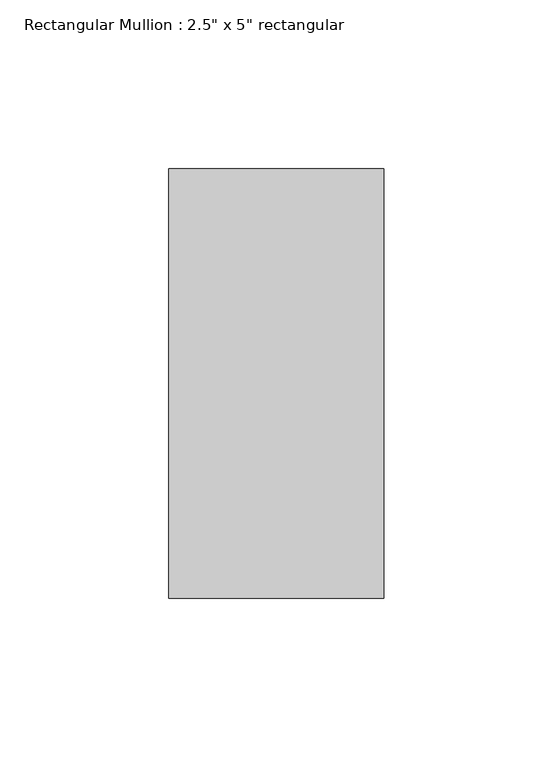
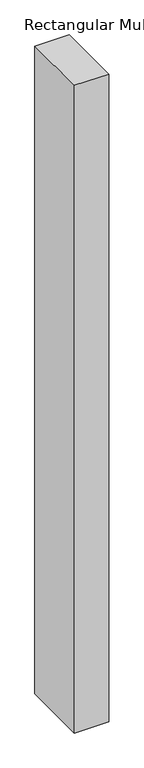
"""IFC4 building model written with IfcOpenShell, lengths in millimetres: member geometry."""

from ifc_helpers import new_model, si_unit, frame, origin, place, context, project, spatial, polyline, outline, extrude, source, transform, mapped, element, save


def member_3f8cbb0a(model_context):
    return source(origin(), model_context, "Body", "SweptSolid", [
        extrude(outline(polyline([(0.0, 50.8), (0.0, -76.2), (-63.5, -76.2), (-63.5, 50.8), (0.0, 50.8)])), frame((0.0, 0.0, -1271.3838652), z_axis=(0.0, 0.0, 1.0), x_axis=(1.0, 0.0, 0.0)), (0.0, 0.0, 1.0), 1271.3838652),
    ])


if __name__ == "__main__":
    model = new_model("IFC4")
    model_context = context("Model", 3, world=origin())
    ifc_project = project(units=[si_unit("LENGTHUNIT", "METRE", prefix="MILLI")], contexts=[model_context])
    site = spatial("IfcSite", under=ifc_project)
    building = spatial("IfcBuilding", under=site)
    placement = place(None, origin())
    member_shape = member_3f8cbb0a(model_context)
    element("IfcMember", 1, ObjectType="Rectangular Mullion : 2.5\" x 5\" rectangular", at=placement, inside=building, context=model_context, shape_type="MappedRepresentation", body=[
        mapped(member_shape, transform((0.0, 0.0, 0.0), x_axis=(1.0, 0.0, 0.0), y_axis=(0.0, 1.0, 0.0), z_axis=(0.0, 0.0, 1.0))),
    ])
    save(model, "model.ifc")
